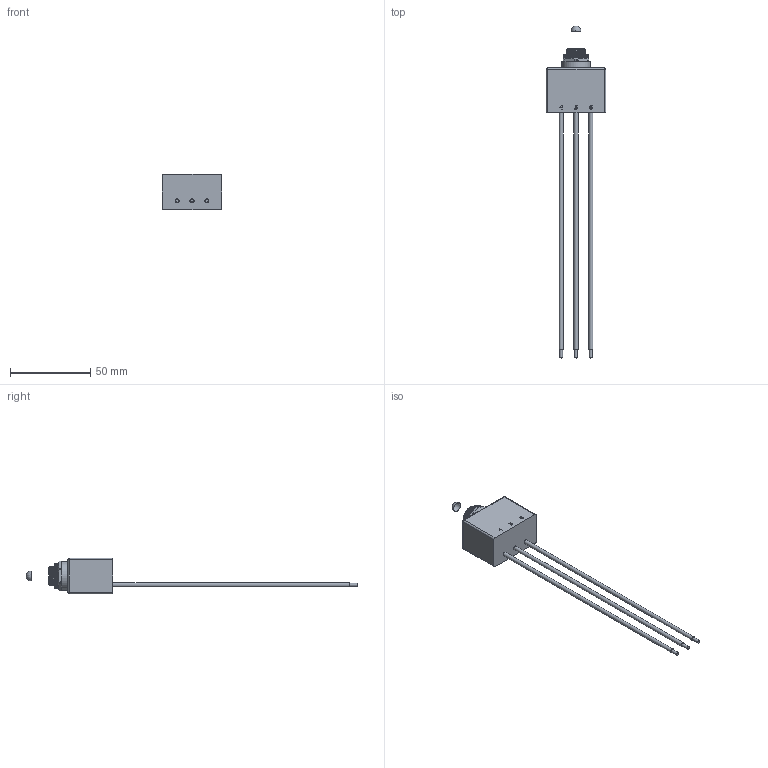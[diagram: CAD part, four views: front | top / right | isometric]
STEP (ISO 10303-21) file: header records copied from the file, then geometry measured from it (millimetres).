
FILE_DESCRIPTION(/* description */ (''),/* implementation_level */ '2;1');
FILE_NAME(/* name */ 'C:\Users\Hani\Desktop\work\TB1-1D-DC-WW\TB1-1D-DC-WW.stp',/* time_stamp */ '2020-04-19T13:34:40-07:00',/* author */ ('Hani'),/* organization */ (''),/* preprocessor_version */ 'ST-DEVELOPER v17',/* originating_system */ 'Autodesk Inventor 2019',/* authorisation */ '');
FILE_SCHEMA (('AUTOMOTIVE_DESIGN { 1 0 10303 214 3 1 1 }'));
Products named in the file (5): TB1-1D-DC-WW; TB1-1D-DC-WW_1; TOGGLE SWITCH; Hex net; Knurled NUT
Assembly tree (4 placements, depth 2):
  TB1-1D-DC-WW
    TB1-1D-DC-WW_1
    TOGGLE SWITCH
    Hex net
    Knurled NUT
Bounding box: 37.08 x 206.44 x 22 mm (x, y, z)
Volume: 27457.9 mm3; surface area: 11114.4 mm2
Topology: 5 solids, 5 shells, 1185 faces, 3180 edges, 2113 vertices
Faces by surface type: plane 853, cylinder 211, bspline 90, cone 24, sphere 5, torus 2
Full cylindrical faces by diameter (mm): 1.854 x3, 2.54 x3, 8.636 x1, 10.875 x1, 11.047 x3, 11.906 x4, 15.723 x1, 17.9 x1
Entity records: 53509 total; most frequent: CARTESIAN_POINT 23286, DIRECTION 6571, ORIENTED_EDGE 6356, EDGE_CURVE 3178, AXIS2_PLACEMENT_3D 2806, VERTEX_POINT 2113, EDGE_LOOP 1301, ELLIPSE 1280
